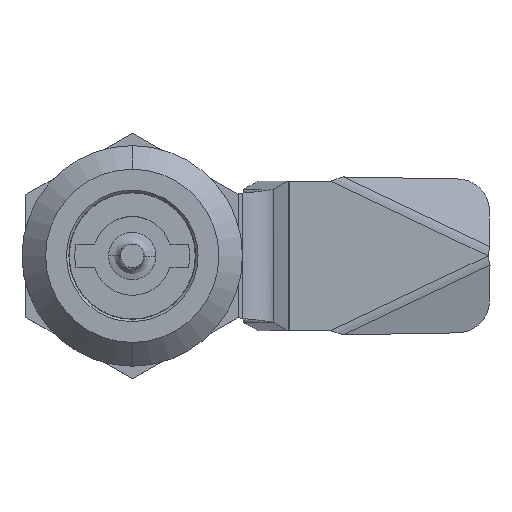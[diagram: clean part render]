
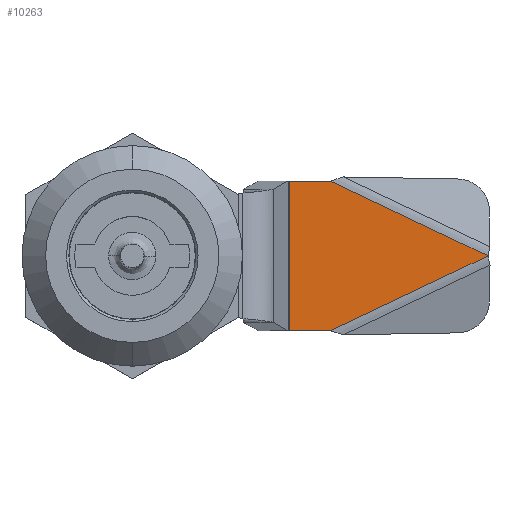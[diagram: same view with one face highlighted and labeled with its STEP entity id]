
A CAD part, top view. The second image highlights one B-rep face of the part: STEP entity #10263.
In plain terms, the highlighted planar face has unit normal (0, 0, 1) as drawn and (0, -1, 0) by its records, which use the part's own axes.
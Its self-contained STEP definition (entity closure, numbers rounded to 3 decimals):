
#23 = PLANE ( 'NONE',  #4722 ) ;
#83 = ORIENTED_EDGE ( 'NONE', *, *, #3774, .F. ) ;
#149 = DIRECTION ( 'NONE',  ( 0., 0., -1. ) ) ;
#168 = CARTESIAN_POINT ( 'NONE',  ( -45.127, 4.031, 0. ) ) ;
#218 = VERTEX_POINT ( 'NONE', #4783 ) ;
#245 = CARTESIAN_POINT ( 'NONE',  ( -19.864, 4.031, 9.5 ) ) ;
#266 = ORIENTED_EDGE ( 'NONE', *, *, #6791, .F. ) ;
#760 = DIRECTION ( 'NONE',  ( -0.903, 0., 0.429 ) ) ;
#1743 = CARTESIAN_POINT ( 'NONE',  ( -31.127, 4.031, 9.5 ) ) ;
#2139 = LINE ( 'NONE', #168, #8593 ) ;
#2522 = CARTESIAN_POINT ( 'NONE',  ( -45.127, 4.031, 0. ) ) ;
#2689 = CARTESIAN_POINT ( 'NONE',  ( -19.864, 4.031, 0. ) ) ;
#2709 = CARTESIAN_POINT ( 'NONE',  ( -25.127, 4.031, 9.5 ) ) ;
#3298 = VECTOR ( 'NONE', #10294, 1000. ) ;
#3315 = VECTOR ( 'NONE', #760, 1000. ) ;
#3612 = LINE ( 'NONE', #1743, #10448 ) ;
#3678 = LINE ( 'NONE', #5079, #3315 ) ;
#3742 = CARTESIAN_POINT ( 'NONE',  ( 4.873, 4.031, 0. ) ) ;
#3774 = EDGE_CURVE ( 'NONE', #12735, #13495, #13157, .T. ) ;
#4173 = VERTEX_POINT ( 'NONE', #2522 ) ;
#4719 = DIRECTION ( 'NONE',  ( 0., 0., 1. ) ) ;
#4722 = AXIS2_PLACEMENT_3D ( 'NONE', #3742, #11824, #4719 ) ;
#4783 = CARTESIAN_POINT ( 'NONE',  ( -25.127, 4.031, -9.5 ) ) ;
#5079 = CARTESIAN_POINT ( 'NONE',  ( -25.127, 4.031, -9.5 ) ) ;
#5139 = DIRECTION ( 'NONE',  ( 1., 0., 0. ) ) ;
#5987 = EDGE_CURVE ( 'NONE', #218, #4173, #3678, .T. ) ;
#6443 = VERTEX_POINT ( 'NONE', #2709 ) ;
#6573 = CARTESIAN_POINT ( 'NONE',  ( -31.127, 4.031, -9.5 ) ) ;
#6791 = EDGE_CURVE ( 'NONE', #13495, #218, #9746, .T. ) ;
#7062 = ORIENTED_EDGE ( 'NONE', *, *, #9233, .F. ) ;
#8593 = VECTOR ( 'NONE', #12033, 1000. ) ;
#9233 = EDGE_CURVE ( 'NONE', #4173, #6443, #2139, .T. ) ;
#9746 = LINE ( 'NONE', #6573, #3298 ) ;
#9886 = EDGE_CURVE ( 'NONE', #6443, #12735, #3612, .T. ) ;
#9981 = VECTOR ( 'NONE', #149, 1000. ) ;
#10263 = ADVANCED_FACE ( 'NONE', ( #13411 ), #23, .F. ) ;
#10294 = DIRECTION ( 'NONE',  ( -1., 0., 0. ) ) ;
#10356 = EDGE_LOOP ( 'NONE', ( #7062, #12728, #266, #83, #12244 ) ) ;
#10448 = VECTOR ( 'NONE', #5139, 1000. ) ;
#11824 = DIRECTION ( 'NONE',  ( 0., 1., 0. ) ) ;
#12033 = DIRECTION ( 'NONE',  ( 0.903, 0., 0.429 ) ) ;
#12244 = ORIENTED_EDGE ( 'NONE', *, *, #9886, .F. ) ;
#12728 = ORIENTED_EDGE ( 'NONE', *, *, #5987, .F. ) ;
#12735 = VERTEX_POINT ( 'NONE', #245 ) ;
#13157 = LINE ( 'NONE', #2689, #9981 ) ;
#13411 = FACE_OUTER_BOUND ( 'NONE', #10356, .T. ) ;
#13495 = VERTEX_POINT ( 'NONE', #13802 ) ;
#13802 = CARTESIAN_POINT ( 'NONE',  ( -19.864, 4.031, -9.5 ) ) ;
